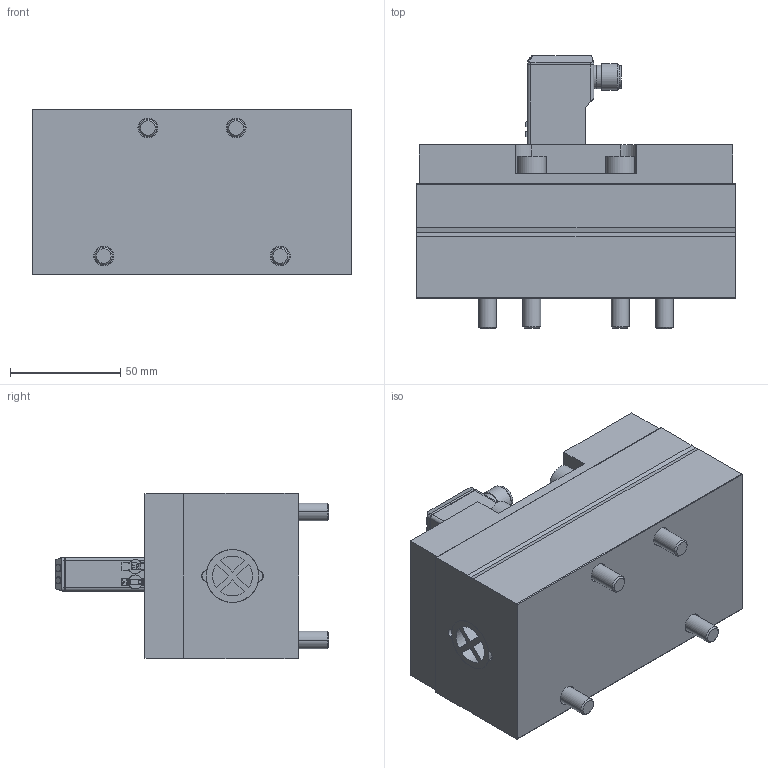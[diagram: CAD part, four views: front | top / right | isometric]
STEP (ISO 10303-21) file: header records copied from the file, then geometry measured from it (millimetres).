
FILE_DESCRIPTION((''),'2;1');
FILE_NAME('5814220710_ASM','2020-09-25T11:24:31',('PDH2HC'),(''),'CREO PARAMETRIC BY PTC INC, 2018190','CREO PARAMETRIC BY PTC INC, 2018190','');
FILE_SCHEMA(('AUTOMOTIVE_DESIGN { 1 0 10303 214 1 1 1 1 }'));
Length unit declared in the file: millimetre
Products named in the file (4): 581-ISO4-BODY-AL; 581-ISO4-EV-COVER-M12-T0; 581-PILOT-M12-DOUBLE; 5814220710_ASM
Assembly tree (3 placements, depth 2):
  5814220710_ASM
    581-ISO4-BODY-AL
    581-ISO4-EV-COVER-M12-T0
    581-PILOT-M12-DOUBLE
Bounding box: 144 x 123.63 x 75 mm (x, y, z)
Volume: 735557.3 mm3; surface area: 98171.5 mm2
Topology: 3 solids, 3 shells, 393 faces, 974 edges, 644 vertices
Faces by surface type: plane 236, cylinder 147, cone 10
Entity records: 12279 total; most frequent: CARTESIAN_POINT 2172, DIRECTION 2128, ORIENTED_EDGE 1948, EDGE_CURVE 974, AXIS2_PLACEMENT_3D 740, VECTOR 648, LINE 648, VERTEX_POINT 644
